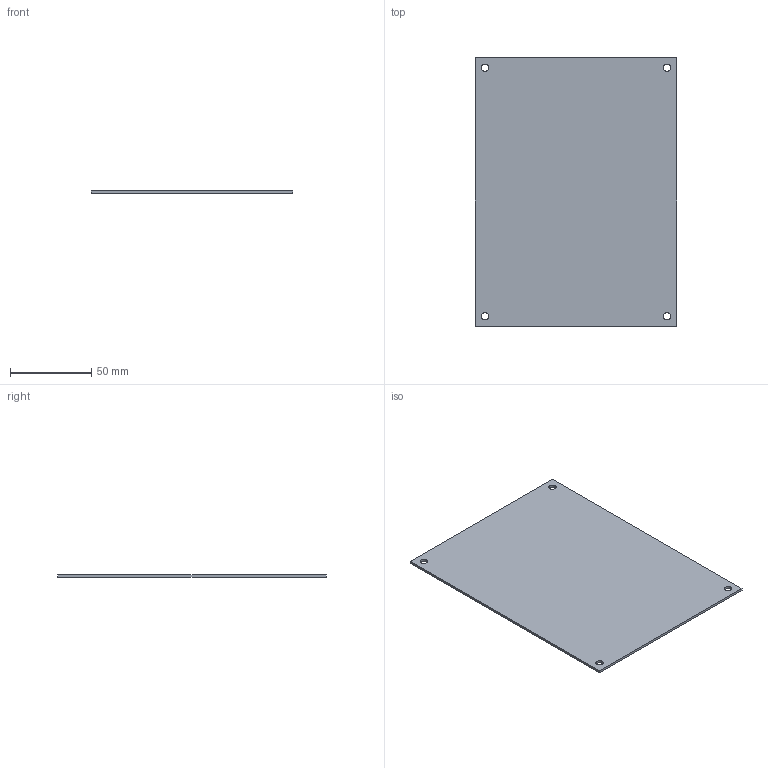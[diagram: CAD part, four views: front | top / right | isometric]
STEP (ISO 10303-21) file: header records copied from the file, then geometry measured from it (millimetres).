
FILE_DESCRIPTION(/* description */ (''),/* implementation_level */ '2;1');
FILE_NAME(/* name */ '4010449.stp',/* time_stamp */ '2019-03-05T03:00:54+01:00',/* author */ (''),/* organization */ (''),/* preprocessor_version */ 'ST-DEVELOPER v16.7',/* originating_system */ 'SIEMENS PLM Software NX 12.0',/* authorisation */ '');
FILE_SCHEMA (('AUTOMOTIVE_DESIGN { 1 0 10303 214 3 1 1 1 }'));
Length unit declared in the file: millimetre
Products named in the file (1): BSOM0DCCF74Fwhya
Bounding box: 124 x 165 x 1.5 mm (x, y, z)
Volume: 30594.6 mm3; surface area: 41744.6 mm2
Topology: 1 solids, 1 shells, 10 faces, 24 edges, 16 vertices
Faces by surface type: plane 6, cylinder 4
Full cylindrical faces by diameter (mm): 4.5 x4
Entity records: 324 total; most frequent: DIRECTION 50, CARTESIAN_POINT 47, ORIENTED_EDGE 40, EDGE_LOOP 22, EDGE_CURVE 20, AXIS2_PLACEMENT_3D 19, FACE_BOUND 18, VERTEX_POINT 16
